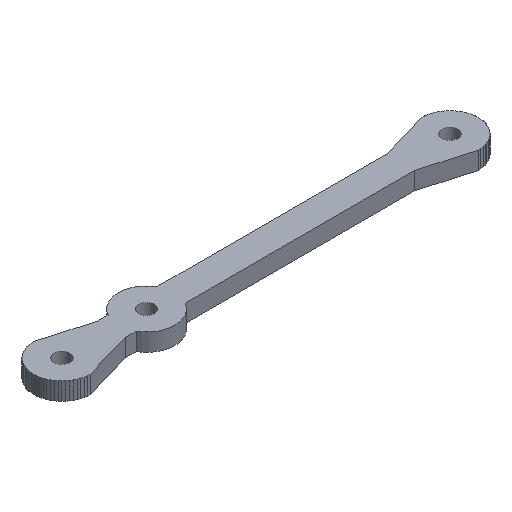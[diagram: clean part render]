
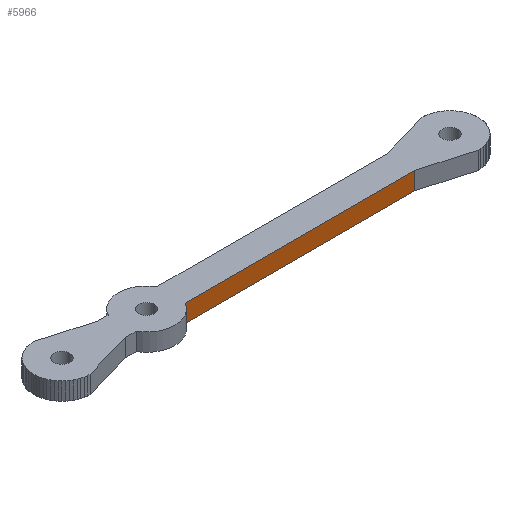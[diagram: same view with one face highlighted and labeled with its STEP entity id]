
A CAD part, isometric view. The second image highlights one B-rep face of the part: STEP entity #5966.
In plain terms, the highlighted planar face has unit normal (0, -1, 0).
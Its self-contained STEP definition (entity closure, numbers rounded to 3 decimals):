
#72 = PLANE('',#73);
#73 = AXIS2_PLACEMENT_3D('',#74,#75,#76);
#74 = CARTESIAN_POINT('',(55.,0.,5.));
#75 = DIRECTION('',(0.,0.,1.));
#76 = DIRECTION('',(1.,0.,-0.));
#126 = PLANE('',#127);
#127 = AXIS2_PLACEMENT_3D('',#128,#129,#130);
#128 = CARTESIAN_POINT('',(55.,0.,0.));
#129 = DIRECTION('',(0.,0.,1.));
#130 = DIRECTION('',(1.,0.,-0.));
#1188 = VERTEX_POINT('',#1189);
#1189 = CARTESIAN_POINT('',(30.928,-4.,0.));
#1204 = CYLINDRICAL_SURFACE('',#1205,8.);
#1205 = AXIS2_PLACEMENT_3D('',#1206,#1207,#1208);
#1206 = CARTESIAN_POINT('',(24.,0.,0.));
#1207 = DIRECTION('',(-0.,-0.,-1.));
#1208 = DIRECTION('',(1.,0.,0.));
#1216 = EDGE_CURVE('',#1188,#1217,#1219,.T.);
#1217 = VERTEX_POINT('',#1218);
#1218 = CARTESIAN_POINT('',(96.,-4.,0.));
#1219 = SURFACE_CURVE('',#1220,(#1224,#1231),.PCURVE_S1.);
#1220 = LINE('',#1221,#1222);
#1221 = CARTESIAN_POINT('',(14.,-4.,0.));
#1222 = VECTOR('',#1223,1.);
#1223 = DIRECTION('',(1.,0.,0.));
#1224 = PCURVE('',#126,#1225);
#1225 = DEFINITIONAL_REPRESENTATION('',(#1226),#1230);
#1226 = LINE('',#1227,#1228);
#1227 = CARTESIAN_POINT('',(-41.,-4.));
#1228 = VECTOR('',#1229,1.);
#1229 = DIRECTION('',(1.,0.));
#1230 = ( GEOMETRIC_REPRESENTATION_CONTEXT(2) 
PARAMETRIC_REPRESENTATION_CONTEXT() REPRESENTATION_CONTEXT('2D SPACE',''
  ) );
#1231 = PCURVE('',#1232,#1237);
#1232 = PLANE('',#1233);
#1233 = AXIS2_PLACEMENT_3D('',#1234,#1235,#1236);
#1234 = CARTESIAN_POINT('',(14.,-4.,0.));
#1235 = DIRECTION('',(0.,1.,0.));
#1236 = DIRECTION('',(1.,0.,0.));
#1237 = DEFINITIONAL_REPRESENTATION('',(#1238),#1242);
#1238 = LINE('',#1239,#1240);
#1239 = CARTESIAN_POINT('',(0.,0.));
#1240 = VECTOR('',#1241,1.);
#1241 = DIRECTION('',(1.,0.));
#1242 = ( GEOMETRIC_REPRESENTATION_CONTEXT(2) 
PARAMETRIC_REPRESENTATION_CONTEXT() REPRESENTATION_CONTEXT('2D SPACE',''
  ) );
#1260 = PLANE('',#1261);
#1261 = AXIS2_PLACEMENT_3D('',#1262,#1263,#1264);
#1262 = CARTESIAN_POINT('',(96.,-4.,0.));
#1263 = DIRECTION('',(0.275,0.962,-0.));
#1264 = DIRECTION('',(0.962,-0.275,0.));
#3122 = VERTEX_POINT('',#3123);
#3123 = CARTESIAN_POINT('',(30.928,-4.,5.));
#3145 = EDGE_CURVE('',#3122,#3146,#3148,.T.);
#3146 = VERTEX_POINT('',#3147);
#3147 = CARTESIAN_POINT('',(96.,-4.,5.));
#3148 = SURFACE_CURVE('',#3149,(#3153,#3160),.PCURVE_S1.);
#3149 = LINE('',#3150,#3151);
#3150 = CARTESIAN_POINT('',(14.,-4.,5.));
#3151 = VECTOR('',#3152,1.);
#3152 = DIRECTION('',(1.,0.,0.));
#3153 = PCURVE('',#72,#3154);
#3154 = DEFINITIONAL_REPRESENTATION('',(#3155),#3159);
#3155 = LINE('',#3156,#3157);
#3156 = CARTESIAN_POINT('',(-41.,-4.));
#3157 = VECTOR('',#3158,1.);
#3158 = DIRECTION('',(1.,0.));
#3159 = ( GEOMETRIC_REPRESENTATION_CONTEXT(2) 
PARAMETRIC_REPRESENTATION_CONTEXT() REPRESENTATION_CONTEXT('2D SPACE',''
  ) );
#3160 = PCURVE('',#1232,#3161);
#3161 = DEFINITIONAL_REPRESENTATION('',(#3162),#3166);
#3162 = LINE('',#3163,#3164);
#3163 = CARTESIAN_POINT('',(0.,-5.));
#3164 = VECTOR('',#3165,1.);
#3165 = DIRECTION('',(1.,0.));
#3166 = ( GEOMETRIC_REPRESENTATION_CONTEXT(2) 
PARAMETRIC_REPRESENTATION_CONTEXT() REPRESENTATION_CONTEXT('2D SPACE',''
  ) );
#5920 = EDGE_CURVE('',#3122,#1188,#5921,.T.);
#5921 = SURFACE_CURVE('',#5922,(#5926,#5932),.PCURVE_S1.);
#5922 = LINE('',#5923,#5924);
#5923 = CARTESIAN_POINT('',(30.928,-4.,0.));
#5924 = VECTOR('',#5925,1.);
#5925 = DIRECTION('',(-0.,-0.,-1.));
#5926 = PCURVE('',#1204,#5927);
#5927 = DEFINITIONAL_REPRESENTATION('',(#5928),#5931);
#5928 = B_SPLINE_CURVE_WITH_KNOTS('',1,(#5929,#5930),.UNSPECIFIED.,.F.,
  .F.,(2,2),(-5.,0.),.PIECEWISE_BEZIER_KNOTS.);
#5929 = CARTESIAN_POINT('',(0.524,-5.));
#5930 = CARTESIAN_POINT('',(0.524,0.));
#5931 = ( GEOMETRIC_REPRESENTATION_CONTEXT(2) 
PARAMETRIC_REPRESENTATION_CONTEXT() REPRESENTATION_CONTEXT('2D SPACE',''
  ) );
#5932 = PCURVE('',#1232,#5933);
#5933 = DEFINITIONAL_REPRESENTATION('',(#5934),#5938);
#5934 = LINE('',#5935,#5936);
#5935 = CARTESIAN_POINT('',(16.928,0.));
#5936 = VECTOR('',#5937,1.);
#5937 = DIRECTION('',(0.,1.));
#5938 = ( GEOMETRIC_REPRESENTATION_CONTEXT(2) 
PARAMETRIC_REPRESENTATION_CONTEXT() REPRESENTATION_CONTEXT('2D SPACE',''
  ) );
#5966 = ADVANCED_FACE('',(#5967),#1232,.F.);
#5967 = FACE_BOUND('',#5968,.F.);
#5968 = EDGE_LOOP('',(#5969,#5970,#5971,#5972));
#5969 = ORIENTED_EDGE('',*,*,#1216,.F.);
#5970 = ORIENTED_EDGE('',*,*,#5920,.F.);
#5971 = ORIENTED_EDGE('',*,*,#3145,.T.);
#5972 = ORIENTED_EDGE('',*,*,#5973,.F.);
#5973 = EDGE_CURVE('',#1217,#3146,#5974,.T.);
#5974 = SURFACE_CURVE('',#5975,(#5979,#5986),.PCURVE_S1.);
#5975 = LINE('',#5976,#5977);
#5976 = CARTESIAN_POINT('',(96.,-4.,0.));
#5977 = VECTOR('',#5978,1.);
#5978 = DIRECTION('',(0.,0.,1.));
#5979 = PCURVE('',#1232,#5980);
#5980 = DEFINITIONAL_REPRESENTATION('',(#5981),#5985);
#5981 = LINE('',#5982,#5983);
#5982 = CARTESIAN_POINT('',(82.,0.));
#5983 = VECTOR('',#5984,1.);
#5984 = DIRECTION('',(0.,-1.));
#5985 = ( GEOMETRIC_REPRESENTATION_CONTEXT(2) 
PARAMETRIC_REPRESENTATION_CONTEXT() REPRESENTATION_CONTEXT('2D SPACE',''
  ) );
#5986 = PCURVE('',#1260,#5987);
#5987 = DEFINITIONAL_REPRESENTATION('',(#5988),#5992);
#5988 = LINE('',#5989,#5990);
#5989 = CARTESIAN_POINT('',(0.,0.));
#5990 = VECTOR('',#5991,1.);
#5991 = DIRECTION('',(0.,-1.));
#5992 = ( GEOMETRIC_REPRESENTATION_CONTEXT(2) 
PARAMETRIC_REPRESENTATION_CONTEXT() REPRESENTATION_CONTEXT('2D SPACE',''
  ) );
